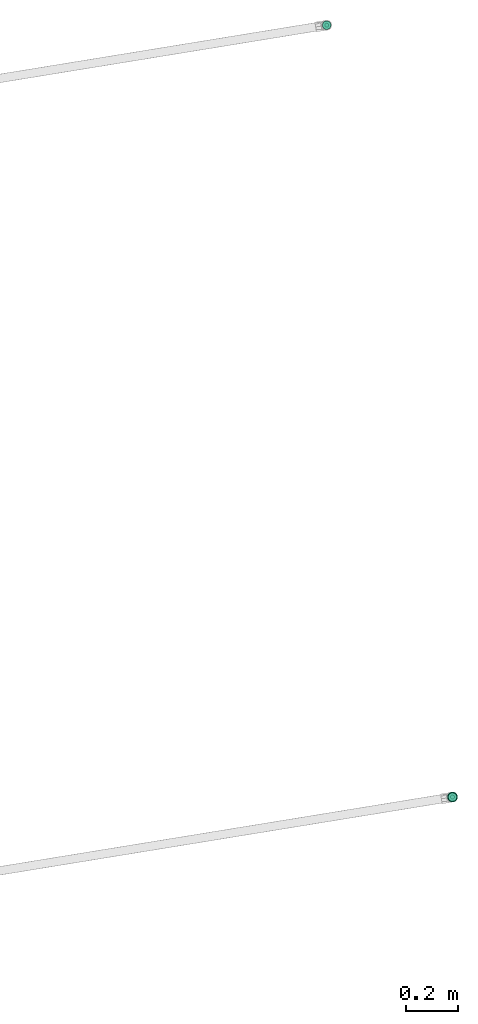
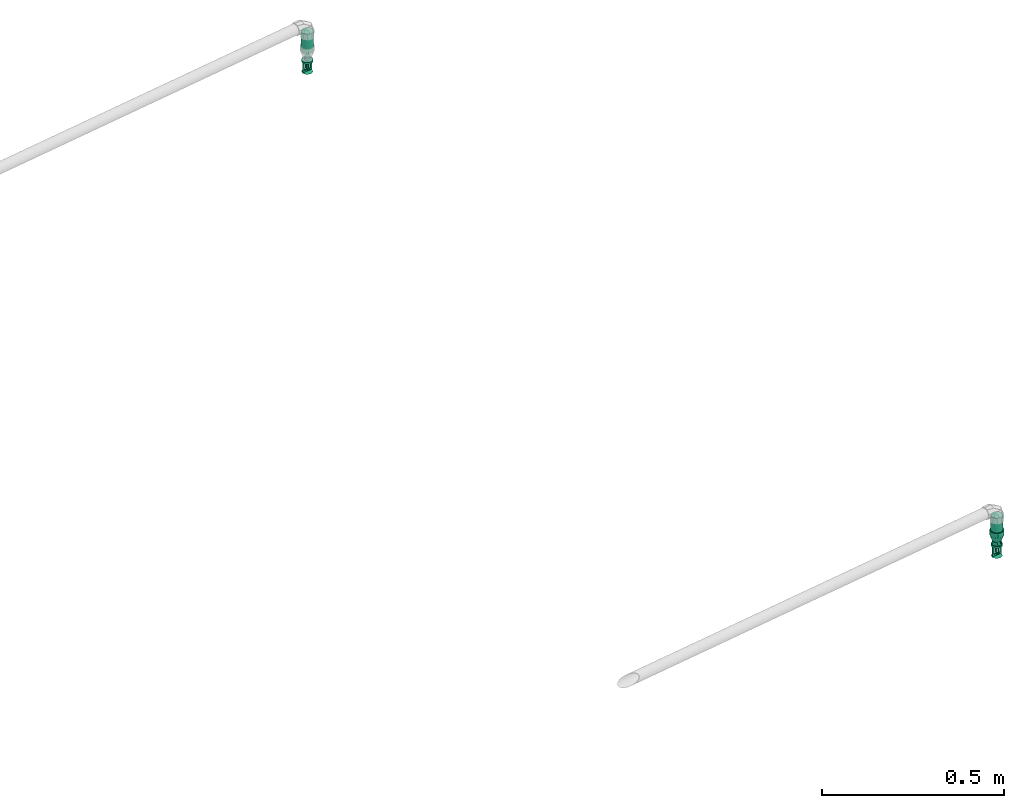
# One storey, part 2 of 3: 2 flow segments, 2 flow terminals, 1 flow fitting.
"""IFC2X3 building model written with IfcOpenShell, lengths in millimetres."""

from ifc_helpers import new_model, entity, si_unit, converted_unit, derived_unit, direction, frame, origin, origin_with_axes, origin_2d_with_axis, place, context, subcontext, project, spatial, circle, extrude, faceted_brep, source, transform, mapped, material, type_object, element, save


model = new_model("IFC2X3")

# Units and contexts
plan_context = context("Plan", 3, precision=1e-05, world=origin_with_axes())
model_context = context("Model", 3, precision=0.01, world=origin(), true_north=direction((6.12323399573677e-17, 1.0)))
body_context = subcontext(model_context, "Body", "Model", "MODEL_VIEW")
ifc_project = project(units=[converted_unit("PLANEANGLEUNIT", "DEGREE", entity("IfcPositiveLengthMeasure", 0.0174532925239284), si_unit("PLANEANGLEUNIT", "RADIAN"), dimensions=[0, 0, 0, 0, 0, 0, 0]), si_unit("AREAUNIT", "SQUARE_METRE"), si_unit("LENGTHUNIT", "METRE", prefix="MILLI"), si_unit("MASSUNIT", "GRAM", prefix="KILO"), si_unit("POWERUNIT", "WATT"), si_unit("PRESSUREUNIT", "PASCAL", prefix="KILO"), si_unit("FORCEUNIT", "NEWTON", prefix="KILO"), si_unit("ELECTRICVOLTAGEUNIT", "VOLT"), si_unit("ELECTRICCURRENTUNIT", "AMPERE"), si_unit("THERMODYNAMICTEMPERATUREUNIT", "DEGREE_CELSIUS"), si_unit("TIMEUNIT", "SECOND"), si_unit("VOLUMEUNIT", "CUBIC_METRE"), derived_unit("LINEARVELOCITYUNIT", [(si_unit("LENGTHUNIT", "METRE"), 1), (si_unit("TIMEUNIT", "SECOND"), -1)]), derived_unit("VOLUMETRICFLOWRATEUNIT", [(si_unit("VOLUMEUNIT", "CUBIC_METRE"), 1), (si_unit("TIMEUNIT", "SECOND"), -1)]), derived_unit("THERMALTRANSMITTANCEUNIT", [(si_unit("POWERUNIT", "WATT"), 1), (si_unit("THERMODYNAMICTEMPERATUREUNIT", "KELVIN"), -1), (si_unit("AREAUNIT", "SQUARE_METRE"), -1)]), derived_unit("SOUNDPRESSUREUNIT", [(si_unit("PRESSUREUNIT", "PASCAL"), 1)])], contexts=[model_context, plan_context])

# Site, building, storey
site_placement = place(None, frame((-3.09682673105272e-06, 1.93776733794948e-05, 0.0), z_axis=(0.0, 0.0, 1.0), x_axis=(-0.160806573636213, 0.986985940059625, 0.0)))
site = spatial("IfcSite", under=ifc_project, at=site_placement, Name="Default", CompositionType="ELEMENT")
building_placement = place(site_placement, frame((0.0, 0.0, 0.0), z_axis=(0.0, 0.0, 1.0), x_axis=(1.0, -2.77555756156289e-17, 0.0)))
building = spatial("IfcBuilding", under=site, at=building_placement, Name="Bygning (endres i Project Information)", CompositionType="ELEMENT")
storey_placement = place(building_placement, frame((0.0, 0.0, 51360.0000000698), z_axis=(0.0, 0.0, 1.0), x_axis=(1.0, -2.77555756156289e-17, 0.0)))
storey = spatial("IfcBuildingStorey", under=building, at=storey_placement, Name="H01-Nivå D+0,36", CompositionType="ELEMENT", Elevation=51360.0000000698)

# Flow fitting
ifc_material = material(Name="3320.001")
pipe_fitting_type = type_object("IfcPipeFittingType", Name="RS_53_PIF_UN_Reducing-Socket-EN10241_MC_gen:RS_53_PIF_UN_Reducing-Socket-EN10241_MC_gen", PredefinedType="NOTDEFINED", material=ifc_material)
shared_shape_1 = source(origin(), body_context, "Body", "Brep", [
    faceted_brep([(0.0, 5.11167614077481, 19.0770350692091), (0.0, 9.87500000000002, 17.1040017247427), (0.0, 13.9653589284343, 13.9653589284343), (0.0, 17.1040017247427, 9.87499999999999), (0.0, 19.0770350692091, 5.11167614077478), (0.0, 19.75, 0.0), (0.0, 19.0770350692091, -5.1116761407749), (0.0, 17.1040017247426, -9.8750000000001), (0.0, 13.9653589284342, -13.9653589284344), (0.0, 9.87499999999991, -17.1040017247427), (0.0, 5.11167614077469, -19.0770350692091), (0.0, 0.0, -19.75), (0.0, -5.11167614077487, -19.0770350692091), (0.0, -9.87500000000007, -17.1040017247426), (0.0, -13.9653589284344, -13.9653589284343), (0.0, -17.1040017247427, -9.87499999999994), (0.0, -19.0770350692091, -5.11167614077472), (0.0, -19.75, 0.0), (0.0, -19.0770350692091, 5.11167614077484), (0.0, -17.1040017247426, 9.87500000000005), (0.0, -13.9653589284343, 13.9653589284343), (0.0, -9.87499999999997, 17.1040017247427), (0.0, -5.11167614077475, 19.0770350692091), (0.0, 0.0, 19.75), (17.0, -6.65118285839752, -18.277344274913), (17.0, -15.1289479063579, -12.6955675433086), (17.0, -16.8438814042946, -9.72538978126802), (17.0, -18.5588149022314, -6.7552120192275), (17.0, -9.87413131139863, -17.1045032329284), (17.0, -12.5015396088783, -14.9000353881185), (17.0, -19.1544074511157, -3.37760600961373), (17.0, -3.42823440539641, -19.4501853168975), (17.0, 3.43119786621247, -19.4496627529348), (17.0, 0.0014817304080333, -19.4499240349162), (17.0, -19.75, 0.0), (17.0, 6.65396758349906, -18.2763306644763), (17.0, 9.87673730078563, -17.1029985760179), (17.0, 18.5598439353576, -6.75238425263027), (17.0, 16.8453630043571, -9.7228232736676), (17.0, 15.1308820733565, -12.6932622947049), (17.0, 12.5038096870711, -14.8981304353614), (17.0, 19.75, 0.0), (17.0, 15.1308820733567, 12.6932622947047), (17.0, 16.8453630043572, 9.72282327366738), (17.0, 18.5598439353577, 6.75238425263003), (17.0, 9.87673730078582, 17.1029985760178), (17.0, 12.5038096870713, 14.8981304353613), (17.0, 3.43119786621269, 19.4496627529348), (17.0, 6.65396758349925, 18.2763306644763), (17.0, -3.4282344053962, 19.4501853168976), (17.0, 0.00148173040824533, 19.4499240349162), (17.0, -15.1289479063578, 12.6955675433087), (17.0, -6.65118285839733, 18.277344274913), (17.0, -9.87413131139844, 17.1045032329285), (17.0, -12.5015396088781, 14.9000353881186), (17.0, -19.1544074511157, 3.37760600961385), (17.0, -18.5588149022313, 6.75521201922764), (17.0, -16.8438814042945, 9.72538978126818), (34.0, 13.5000000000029, 0.0), (34.0, 12.6868795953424, -4.61444320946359), (34.0, -4.54589529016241, -12.4935366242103), (34.0, -2.34276817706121, -13.2951659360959), (34.0, 6.75195505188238, -11.6902139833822), (34.0, 0.00166747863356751, -13.2948718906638), (34.0, 2.34610313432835, -13.2945778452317), (34.0, 10.3432928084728, -8.67561489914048), (34.0, 8.54762393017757, -10.1829144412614), (34.0, 4.54902909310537, -12.492395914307), (34.0, 11.5150862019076, -6.64502905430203), (34.0, -6.74902240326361, -11.6919073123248), (34.0, -13.4999999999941, 0.0), (34.0, -13.0928608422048, -2.30881275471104), (34.0, -10.3411162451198, -8.6782091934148), (34.0, -8.54506932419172, -10.1850582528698), (34.0, -12.6857216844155, -4.61762550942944), (34.0, -11.5134189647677, -6.64791735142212), (34.0, -13.0928608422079, 2.30881275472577), (34.0, -12.6857216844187, 4.6176255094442), (34.0, 2.34610313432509, 13.2945778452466), (34.0, 4.54902909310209, 12.4923959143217), (34.0, -10.3411162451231, 8.67820919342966), (34.0, 0.00166747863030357, 13.2948718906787), (34.0, -6.74902240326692, 11.6919073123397), (34.0, -8.54506932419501, 10.1850582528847), (34.0, -11.5134189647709, 6.64791735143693), (34.0, -2.34276817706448, 13.2951659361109), (34.0, -4.5458952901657, 12.4935366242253), (34.0, 12.6868795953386, 4.61444320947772), (34.0, 11.5150862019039, 6.64502905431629), (34.0, 10.3432928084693, 8.67561489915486), (34.0, 6.7519550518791, 11.6902139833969), (34.0, 8.54762393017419, 10.1829144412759), (51.0, 3.49405710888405, -13.0399986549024), (51.0, 6.75000000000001, -11.6913429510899), (51.0, 9.5459415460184, -9.54594154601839), (51.0, 11.6913429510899, -6.74999999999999), (51.0, 13.0399986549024, -3.49405710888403), (51.0, 13.5, 0.0), (51.0, 13.0399986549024, 3.49405710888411), (51.0, 11.6913429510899, 6.75000000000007), (51.0, 9.54594154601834, 9.54594154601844), (51.0, 6.74999999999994, 11.69134295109), (51.0, 3.49405710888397, 13.0399986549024), (51.0, 0.0, 13.5), (51.0, -3.49405710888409, 13.0399986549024), (51.0, -6.75000000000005, 11.6913429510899), (51.0, -9.54594154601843, 9.54594154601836), (51.0, -11.6913429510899, 6.74999999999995), (51.0, -13.0399986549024, 3.49405710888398), (51.0, -13.5, 0.0), (51.0, -13.0399986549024, -3.49405710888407), (51.0, -11.6913429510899, -6.75000000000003), (51.0, -9.54594154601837, -9.54594154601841), (51.0, -6.74999999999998, -11.6913429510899), (51.0, -3.49405710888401, -13.0399986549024), (51.0, 0.0, -13.5)], [[[0, 1, 2, 3, 4, 5, 6, 7, 8, 9, 10, 11, 12, 13, 14, 15, 16, 17, 18, 19, 20, 21, 22, 23]], [[24, 13, 12]], [[15, 14, 25]], [[15, 25, 26, 27]], [[28, 29, 13]], [[16, 27, 30]], [[30, 17, 16]], [[15, 27, 16]], [[12, 31, 24]], [[25, 14, 29]], [[11, 32, 33, 31]], [[24, 28, 13]], [[13, 29, 14]], [[30, 34, 17]], [[32, 11, 10]], [[35, 9, 36]], [[7, 37, 38, 39]], [[9, 35, 10]], [[7, 6, 37]], [[8, 39, 40]], [[32, 10, 35]], [[7, 39, 8]], [[40, 36, 9]], [[6, 41, 37]], [[6, 5, 41]], [[11, 31, 12]], [[40, 9, 8]], [[41, 5, 4]], [[3, 2, 42]], [[3, 42, 43, 44]], [[45, 46, 1]], [[44, 41, 4]], [[0, 47, 48]], [[42, 2, 46]], [[23, 49, 50, 47]], [[1, 46, 2]], [[49, 23, 22]], [[19, 51, 20]], [[52, 21, 53]], [[3, 44, 4]], [[48, 45, 1]], [[54, 53, 21]], [[17, 34, 55]], [[21, 52, 22]], [[20, 51, 54]], [[49, 22, 52]], [[48, 1, 0]], [[17, 55, 18]], [[56, 19, 18]], [[18, 55, 56]], [[54, 21, 20]], [[57, 51, 19, 56]], [[23, 47, 0]], [[41, 58, 59]], [[60, 31, 61]], [[40, 62, 36]], [[63, 32, 64]], [[65, 39, 38]], [[64, 32, 35]], [[61, 33, 63]], [[37, 41, 59]], [[62, 40, 66]], [[40, 39, 66]], [[35, 36, 67]], [[65, 38, 68]], [[37, 68, 38]], [[64, 35, 67]], [[61, 31, 33]], [[69, 28, 24]], [[69, 24, 60]], [[70, 30, 71]], [[72, 29, 73]], [[30, 70, 34]], [[74, 27, 26]], [[68, 37, 59]], [[72, 25, 29]], [[27, 74, 71]], [[31, 60, 24]], [[29, 28, 73]], [[75, 26, 25]], [[67, 36, 62]], [[66, 39, 65]], [[27, 71, 30]], [[74, 26, 75]], [[73, 28, 69]], [[63, 33, 32]], [[75, 25, 72]], [[56, 76, 77]], [[48, 78, 79]], [[54, 51, 80]], [[81, 47, 50]], [[57, 56, 77]], [[52, 53, 82]], [[82, 53, 83]], [[55, 70, 76]], [[70, 55, 34]], [[84, 51, 57]], [[50, 85, 81]], [[56, 55, 76]], [[86, 49, 52]], [[83, 53, 54]], [[81, 78, 47]], [[48, 47, 78]], [[80, 51, 84]], [[49, 85, 50]], [[87, 44, 88]], [[87, 58, 41]], [[43, 42, 89]], [[57, 77, 84]], [[46, 45, 90]], [[85, 49, 86]], [[88, 44, 43]], [[54, 80, 83]], [[91, 42, 46]], [[52, 82, 86]], [[89, 42, 91]], [[87, 41, 44]], [[90, 45, 79]], [[46, 90, 91]], [[79, 45, 48]], [[43, 89, 88]], [[92, 93, 94, 95, 96, 97, 98, 99, 100, 101, 102, 103, 104, 105, 106, 107, 108, 109, 110, 111, 112, 113, 114, 115]], [[58, 97, 96]], [[95, 94, 65]], [[95, 65, 68, 59]], [[62, 66, 93]], [[59, 58, 96]], [[92, 64, 67]], [[65, 94, 66]], [[115, 61, 63, 64]], [[93, 66, 94]], [[67, 93, 92]], [[67, 62, 93]], [[95, 59, 96]], [[114, 61, 115]], [[111, 110, 74]], [[73, 113, 112]], [[109, 71, 110]], [[111, 74, 75, 72]], [[109, 70, 71]], [[60, 61, 114]], [[113, 69, 60]], [[111, 72, 112]], [[113, 60, 114]], [[112, 72, 73]], [[115, 64, 92]], [[71, 74, 110]], [[73, 69, 113]], [[86, 105, 104]], [[107, 106, 80]], [[107, 80, 84, 77]], [[82, 83, 105]], [[108, 77, 76]], [[76, 70, 109]], [[76, 109, 108]], [[104, 85, 86]], [[80, 106, 83]], [[103, 78, 81, 85]], [[91, 101, 100]], [[105, 83, 106]], [[86, 82, 105]], [[78, 103, 102]], [[79, 101, 90]], [[99, 87, 88, 89]], [[101, 79, 102]], [[99, 98, 87]], [[100, 89, 91]], [[78, 102, 79]], [[103, 85, 104]], [[99, 89, 100]], [[98, 58, 87]], [[107, 77, 108]], [[98, 97, 58]], [[91, 90, 101]]]),
])
flow_fitting_placement = place(storey_placement, frame((974074.474921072, -370459.691563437, 1967.14570380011), z_axis=(1.0, -2.77555756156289e-17, 0.0), x_axis=(0.0, 0.0, -1.0)))
element("IfcFlowFitting", 1, at=flow_fitting_placement, inside=storey, type_object=pipe_fitting_type, material=ifc_material, Name="RS_53_PIF_UN_Reducing-Socket-EN10241_MC_gen:RS_53_PIF_UN_Reducing-Socket-EN10241_MC_gen", ObjectType="RS_53_PIF_UN_Reducing-Socket-EN10241_MC_gen:RS_53_PIF_UN_Reducing-Socket-EN10241_MC_gen", context=body_context, shape_type="MappedRepresentation", body=[
    mapped(shared_shape_1, transform((0.0, 0.0, 0.0), scale=1.0)),
])

# Flow terminals
fire_suppression_terminal_type = type_object("IfcFireSuppressionTerminalType", Name="SSP K80 HIMLING:SP-15-K80-68DGR-RS", PredefinedType="NOTDEFINED", material=ifc_material)
shared_shape_2 = source(origin(), body_context, "Body", "Brep", [
    faceted_brep([(-2.5, 0.0, 57.0), (0.0, -2.5, 57.0), (2.5, 0.0, 57.0), (0.0, 2.5, 57.0), (-2.5, 0.0, 53.0), (0.0, 2.5, 53.0), (2.5, 0.0, 53.0), (0.0, -2.5, 53.0)], [[[0, 1, 2, 3]], [[4, 5, 6, 7]], [[0, 4, 7, 1]], [[7, 6, 2, 1]], [[2, 6, 5, 3]], [[5, 4, 0, 3]]]),
    faceted_brep([(1.0, -15.5, 51.0), (1.0, -15.5, 19.0), (1.0, -10.5, 19.0), (1.0, -10.5, 45.0), (1.0, 10.5, 45.0), (1.0, 10.5, 19.0), (1.0, 15.5, 19.0), (1.0, 15.5, 51.0), (-1.0, -15.5, 51.0), (-1.0, 15.5, 51.0), (-1.0, 15.5, 19.0), (-1.0, 10.5, 19.0), (-1.0, 10.5, 45.0), (-1.0, -10.5, 45.0), (-1.0, -10.5, 19.0), (-1.0, -15.5, 19.0)], [[[0, 1, 2, 3, 4, 5, 6, 7]], [[8, 9, 10, 11, 12, 13, 14, 15]], [[1, 0, 8, 15]], [[2, 1, 15, 14]], [[3, 2, 14, 13]], [[4, 3, 13, 12]], [[5, 4, 12, 11]], [[6, 5, 11, 10]], [[7, 6, 10, 9]], [[0, 7, 9, 8]]]),
    faceted_brep([(-8.5, 1.0, 45.0), (8.5, 1.0, 45.0), (8.5, 1.0, 19.0), (5.5, 1.0, 19.0), (5.5, 1.0, 42.0), (-5.5, 1.0, 42.0), (-5.5, 1.0, 19.0), (-8.5, 1.0, 19.0), (-8.5, -1.0, 45.0), (-8.5, -1.0, 19.0), (-5.5, -1.0, 19.0), (-5.5, -1.0, 42.0), (5.5, -1.0, 42.0), (5.5, -1.0, 19.0), (8.5, -1.0, 19.0), (8.5, -1.0, 45.0)], [[[0, 1, 2, 3, 4, 5, 6, 7]], [[8, 9, 10, 11, 12, 13, 14, 15]], [[1, 0, 8, 15]], [[2, 1, 15, 14]], [[3, 2, 14, 13]], [[4, 3, 13, 12]], [[5, 4, 12, 11]], [[6, 5, 11, 10]], [[7, 6, 10, 9]], [[0, 7, 9, 8]]]),
    faceted_brep([(11.3137084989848, 11.3137084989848, 53.0), (0.0, 16.0, 53.0), (-11.3137084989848, 11.3137084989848, 53.0), (-16.0, 0.0, 53.0), (-11.3137084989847, -11.3137084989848, 53.0), (0.0, -16.0, 53.0), (11.3137084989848, -11.3137084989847, 53.0), (16.0, 0.0, 53.0), (-2.5, 0.0, 51.0), (0.0, 2.5, 51.0), (2.5, 0.0, 51.0), (0.0, -2.5, 51.0)], [[[0, 1, 2, 3, 4, 5, 6, 7]], [[8, 9, 10, 11]], [[4, 11, 5]], [[11, 4, 8]], [[4, 3, 8]], [[11, 10, 6]], [[7, 6, 10]], [[11, 6, 5]], [[0, 9, 1]], [[9, 0, 10]], [[0, 7, 10]], [[9, 8, 2]], [[3, 2, 8]], [[9, 2, 1]]]),
    faceted_brep([(4.14110472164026, -15.4548132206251, 19.0), (8.0, -13.8564064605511, 19.0), (11.3137084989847, -11.3137084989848, 19.0), (13.856406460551, -8.0, 19.0), (15.4548132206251, -4.14110472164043, 19.0), (16.0, 0.0, 19.0), (15.4548132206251, 4.14110472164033, 19.0), (13.856406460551, 8.0, 19.0), (11.3137084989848, 11.3137084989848, 19.0), (8.0, 13.856406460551, 19.0), (4.14110472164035, 15.4548132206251, 19.0), (0.0, 16.0, 19.0), (-4.14110472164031, 15.4548132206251, 19.0), (-8.0, 13.856406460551, 19.0), (-11.3137084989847, 11.3137084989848, 19.0), (-13.856406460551, 8.0, 19.0), (-15.4548132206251, 4.14110472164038, 19.0), (-16.0, 0.0, 19.0), (-15.4548132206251, -4.14110472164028, 19.0), (-13.8564064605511, -8.0, 19.0), (-11.3137084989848, -11.3137084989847, 19.0), (-8.0, -13.856406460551, 19.0), (-4.1411047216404, -15.4548132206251, 19.0), (0.0, -16.0, 19.0), (4.14110472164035, 15.4548132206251, 13.0), (8.0, 13.856406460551, 13.0), (11.3137084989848, 11.3137084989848, 13.0), (13.856406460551, 8.0, 13.0), (15.4548132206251, 4.14110472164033, 13.0), (16.0, 0.0, 13.0), (15.4548132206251, -4.14110472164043, 13.0), (13.856406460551, -8.0, 13.0), (11.3137084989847, -11.3137084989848, 13.0), (8.0, -13.8564064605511, 13.0), (4.14110472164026, -15.4548132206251, 13.0), (0.0, -16.0, 13.0), (-4.1411047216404, -15.4548132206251, 13.0), (-8.0, -13.856406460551, 13.0), (-11.3137084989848, -11.3137084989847, 13.0), (-13.8564064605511, -8.0, 13.0), (-15.4548132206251, -4.14110472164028, 13.0), (-16.0, 0.0, 13.0), (-15.4548132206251, 4.14110472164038, 13.0), (-13.856406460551, 8.0, 13.0), (-11.3137084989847, 11.3137084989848, 13.0), (-8.0, 13.856406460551, 13.0), (-4.14110472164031, 15.4548132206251, 13.0), (0.0, 16.0, 13.0)], [[[0, 1, 2, 3, 4, 5, 6, 7, 8, 9, 10, 11, 12, 13, 14, 15, 16, 17, 18, 19, 20, 21, 22, 23]], [[24, 25, 26, 27, 28, 29, 30, 31, 32, 33, 34, 35, 36, 37, 38, 39, 40, 41, 42, 43, 44, 45, 46, 47]], [[40, 18, 17, 41]], [[39, 19, 18, 40]], [[21, 20, 38, 37]], [[39, 38, 20, 19]], [[22, 21, 37, 36]], [[23, 22, 36, 35]], [[34, 0, 23, 35]], [[33, 1, 0, 34]], [[3, 2, 32, 31]], [[33, 32, 2, 1]], [[4, 3, 31, 30]], [[5, 4, 30, 29]], [[28, 6, 5, 29]], [[27, 7, 6, 28]], [[9, 8, 26, 25]], [[27, 26, 8, 7]], [[10, 9, 25, 24]], [[11, 10, 24, 47]], [[46, 12, 11, 47]], [[45, 13, 12, 46]], [[15, 14, 44, 43]], [[45, 44, 14, 13]], [[16, 15, 43, 42]], [[17, 16, 42, 41]]]),
    faceted_brep([(-2.5, 0.0, 51.0), (0.0, -2.5, 51.0), (2.5, 0.0, 51.0), (0.0, 2.5, 51.0), (-2.5, 0.0, 19.0), (0.0, 2.5, 19.0), (2.5, 0.0, 19.0), (0.0, -2.5, 19.0)], [[[0, 1, 2, 3]], [[4, 5, 6, 7]], [[0, 4, 7, 1]], [[7, 6, 2, 1]], [[2, 6, 5, 3]], [[5, 4, 0, 3]]]),
    faceted_brep([(1.94114283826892, -7.24444369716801, 13.0), (3.75000000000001, -6.49519052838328, 13.0), (5.30330085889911, -5.3033008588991, 13.0), (6.49519052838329, -3.75, 13.0), (7.24444369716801, -1.9411428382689, 13.0), (7.5, 0.0, 13.0), (7.24444369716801, 1.9411428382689, 13.0), (6.49519052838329, 3.75, 13.0), (5.30330085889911, 5.3033008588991, 13.0), (3.75000000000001, 6.49519052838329, 13.0), (1.94114283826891, 7.24444369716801, 13.0), (0.0, 7.5, 13.0), (-1.94114283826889, 7.24444369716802, 13.0), (-3.74999999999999, 6.4951905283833, 13.0), (-5.3033008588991, 5.30330085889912, 13.0), (-6.49519052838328, 3.75000000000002, 13.0), (-7.24444369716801, 1.94114283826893, 13.0), (-7.5, 0.0, 13.0), (-7.244443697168, -1.94114283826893, 13.0), (-6.49519052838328, -3.75000000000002, 13.0), (-5.30330085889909, -5.30330085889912, 13.0), (-3.74999999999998, -6.4951905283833, 13.0), (-1.94114283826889, -7.24444369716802, 13.0), (0.0, -7.5, 13.0), (5.30330085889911, 5.3033008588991, 0.0), (6.49519052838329, 3.75, 0.0), (7.24444369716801, 1.9411428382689, 0.0), (7.5, 0.0, 0.0), (7.24444369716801, -1.9411428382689, 0.0), (6.49519052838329, -3.75, 0.0), (5.30330085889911, -5.3033008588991, 0.0), (3.75000000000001, -6.49519052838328, 0.0), (1.94114283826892, -7.24444369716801, 0.0), (0.0, -7.5, 0.0), (-1.94114283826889, -7.24444369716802, 0.0), (-3.74999999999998, -6.4951905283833, 0.0), (-5.30330085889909, -5.30330085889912, 0.0), (-6.49519052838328, -3.75000000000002, 0.0), (-7.244443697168, -1.94114283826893, 0.0), (-7.5, 0.0, 0.0), (-7.24444369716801, 1.94114283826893, 0.0), (-6.49519052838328, 3.75000000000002, 0.0), (-5.3033008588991, 5.30330085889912, 0.0), (-3.74999999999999, 6.4951905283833, 0.0), (-1.94114283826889, 7.24444369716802, 0.0), (0.0, 7.5, 0.0), (1.94114283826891, 7.24444369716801, 0.0), (3.75000000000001, 6.49519052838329, 0.0)], [[[0, 1, 2, 3, 4, 5, 6, 7, 8, 9, 10, 11, 12, 13, 14, 15, 16, 17, 18, 19, 20, 21, 22, 23]], [[24, 25, 26, 27, 28, 29, 30, 31, 32, 33, 34, 35, 36, 37, 38, 39, 40, 41, 42, 43, 44, 45, 46, 47]], [[38, 18, 17, 39]], [[37, 19, 18, 38]], [[21, 20, 36, 35]], [[37, 36, 20, 19]], [[22, 21, 35, 34]], [[23, 22, 34, 33]], [[32, 0, 23, 33]], [[31, 1, 0, 32]], [[3, 2, 30, 29]], [[31, 30, 2, 1]], [[4, 3, 29, 28]], [[5, 4, 28, 27]], [[26, 6, 5, 27]], [[25, 7, 6, 26]], [[9, 8, 24, 47]], [[25, 24, 8, 7]], [[10, 9, 47, 46]], [[11, 10, 46, 45]], [[44, 12, 11, 45]], [[43, 13, 12, 44]], [[15, 14, 42, 41]], [[43, 42, 14, 13]], [[16, 15, 41, 40]], [[17, 16, 40, 39]]]),
])
for number, where, z_axis, x_axis in (
    (2, (974074.474921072, -370459.691563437, 1933.14570380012), (0.0, 0.0, -1.0), (-1.0, 2.77555756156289e-17, 0.0)),
    (3, (977072.416933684, -370459.691563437, 1933.14570380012), (0.0, 0.0, -1.0), (-1.0, 2.77555756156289e-17, 0.0)),
):
    element("IfcFlowTerminal", number, at=place(storey_placement, frame(where, z_axis=z_axis, x_axis=x_axis)), inside=storey, type_object=fire_suppression_terminal_type, material=ifc_material, Name="SSP K80 HIMLING:SP-15-K80-68DGR-RS", ObjectType="SSP K80 HIMLING:SP-15-K80-68DGR-RS", context=body_context, shape_type="MappedRepresentation", body=[
        mapped(shared_shape_2, transform((0.0, 0.0, 0.0), scale=1.0)),
    ])

# Flow segments
pipe_segment_type = type_object("IfcPipeSegmentType", Name="Pipe Types:Stålrør sveist og gjenget", PredefinedType="NOTDEFINED", material=ifc_material)
flow_segment_1_placement = place(storey_placement, frame((0.0, 0.0, 0.0), z_axis=(0.0, 0.0, 1.0), x_axis=(1.0, -2.77555756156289e-17, 0.0)))
element("IfcFlowSegment", 4, at=flow_segment_1_placement, inside=storey, type_object=pipe_segment_type, Name="Pipe Types:Stålrør sveist og gjenget", ObjectType="Pipe Types:Stålrør sveist og gjenget", context=body_context, shape_type="SweptSolid", body=[
    extrude(circle(Radius=16.8500004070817, at=origin_2d_with_axis()), frame((974074.474921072, -370459.691563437, 1950.1457038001)), (0.0, 0.0, 1.0), 65.9542961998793),
])
flow_segment_2_placement = place(storey_placement, frame((0.0, 0.0, 0.0), z_axis=(0.0, 0.0, 1.0), x_axis=(1.0, -2.77555756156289e-17, 0.0)))
element("IfcFlowSegment", 5, at=flow_segment_2_placement, inside=storey, type_object=pipe_segment_type, Name="Pipe Types:Stålrør sveist og gjenget", ObjectType="Pipe Types:Stålrør sveist og gjenget", context=body_context, shape_type="SweptSolid", body=[
    extrude(circle(Radius=16.8500004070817, at=origin_2d_with_axis()), frame((977072.416933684, -370459.691563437, 1950.1457038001)), (0.0, 0.0, 1.0), 65.9542961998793),
])

save(model, "model.ifc")
